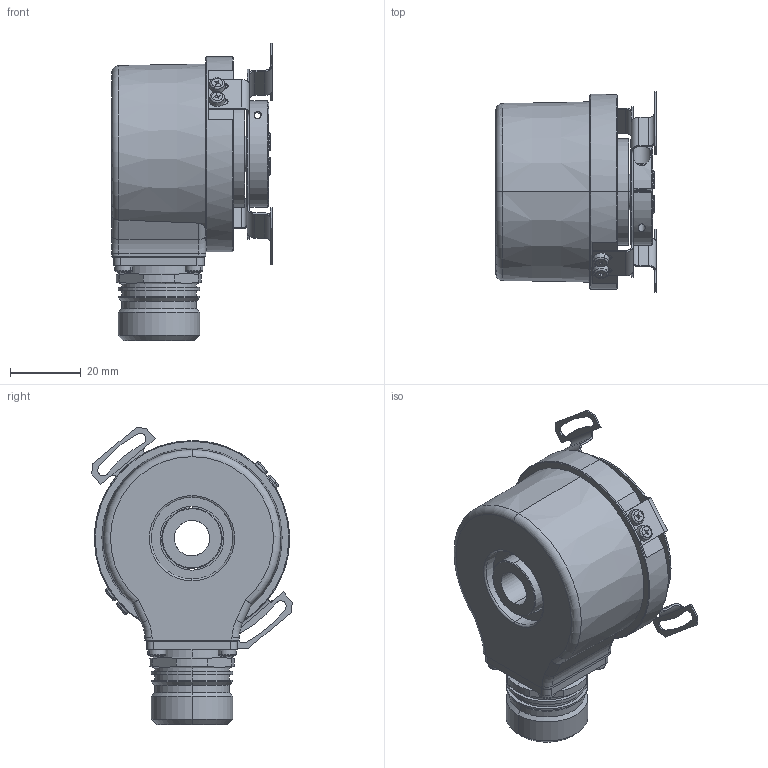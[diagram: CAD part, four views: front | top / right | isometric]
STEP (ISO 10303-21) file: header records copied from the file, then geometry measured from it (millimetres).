
FILE_DESCRIPTION (( 'STEP AP214' ), '1' );
FILE_NAME ('8.5020.D3X4.XXXX.STEP', '2011-01-10T10:37:22', ( 'admin' ), ( 'Fritz Kübler GmbH' ), 'SwSTEP 2.0', 'SolidWorks 2009', '' );
FILE_SCHEMA (( 'AUTOMOTIVE_DESIGN' ));
Length unit declared in the file: millimetre
Products named in the file (1): 8.5020.D3X4.XXXX
Bounding box: 45.2 x 56.46 x 83.69 mm (x, y, z)
Surface area: 23448.1 mm2 (no closed solid volume)
Topology: 0 solids, 39 shells, 503 faces, 1409 edges, 916 vertices
Faces by surface type: plane 205, cylinder 184, torus 40, cone 38, sphere 32, bspline 4
Entity records: 22091 total; most frequent: CARTESIAN_POINT 3396, DIRECTION 2977, ORIENTED_EDGE 2461, EDGE_CURVE 1385, AXIS2_PLACEMENT_3D 1167, VERTEX_POINT 916, CIRCLE 667, VECTOR 643
